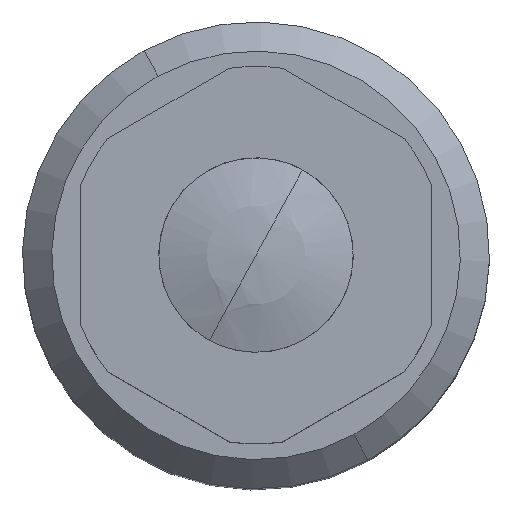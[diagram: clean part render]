
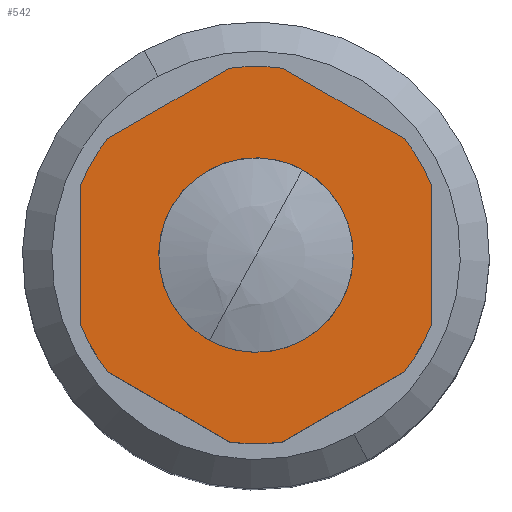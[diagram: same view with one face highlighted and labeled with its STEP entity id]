
A CAD part, top view. The second image highlights one B-rep face of the part: STEP entity #542.
In plain terms, the highlighted planar face has unit normal (0, 0, 1).
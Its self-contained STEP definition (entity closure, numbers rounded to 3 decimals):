
#129=CARTESIAN_POINT('Vertex',(1.199,-2.194,27.)) ;
#145=CARTESIAN_POINT('Vertex',(-1.199,2.194,27.)) ;
#148=CARTESIAN_POINT('Axis2P3D Location',(0.,0.,27.)) ;
#165=CARTESIAN_POINT('Axis2P3D Location',(0.,0.,27.)) ;
#435=CARTESIAN_POINT('Axis2P3D Location',(0.,4.85,27.)) ;
#440=CARTESIAN_POINT('Line Origine',(4.5,0.,27.)) ;
#444=CARTESIAN_POINT('Vertex',(4.5,-1.809,27.)) ;
#446=CARTESIAN_POINT('Vertex',(4.5,1.809,27.)) ;
#449=CARTESIAN_POINT('Axis2P3D Location',(0.,0.,27.)) ;
#453=CARTESIAN_POINT('Vertex',(3.817,2.993,27.)) ;
#456=CARTESIAN_POINT('Line Origine',(2.25,3.897,27.)) ;
#460=CARTESIAN_POINT('Vertex',(0.683,4.802,27.)) ;
#463=CARTESIAN_POINT('Axis2P3D Location',(0.,0.,27.)) ;
#467=CARTESIAN_POINT('Vertex',(-0.683,4.802,27.)) ;
#470=CARTESIAN_POINT('Line Origine',(-2.25,3.897,27.)) ;
#474=CARTESIAN_POINT('Vertex',(-3.817,2.993,27.)) ;
#477=CARTESIAN_POINT('Axis2P3D Location',(0.,0.,27.)) ;
#481=CARTESIAN_POINT('Vertex',(-4.5,1.809,27.)) ;
#484=CARTESIAN_POINT('Line Origine',(-4.5,0.,27.)) ;
#488=CARTESIAN_POINT('Vertex',(-4.5,-1.809,27.)) ;
#491=CARTESIAN_POINT('Axis2P3D Location',(0.,0.,27.)) ;
#495=CARTESIAN_POINT('Vertex',(-3.817,-2.993,27.)) ;
#498=CARTESIAN_POINT('Line Origine',(-2.25,-3.897,27.)) ;
#502=CARTESIAN_POINT('Vertex',(-0.683,-4.802,27.)) ;
#505=CARTESIAN_POINT('Axis2P3D Location',(0.,0.,27.)) ;
#509=CARTESIAN_POINT('Vertex',(0.683,-4.802,27.)) ;
#512=CARTESIAN_POINT('Line Origine',(2.25,-3.897,27.)) ;
#516=CARTESIAN_POINT('Vertex',(3.817,-2.993,27.)) ;
#519=CARTESIAN_POINT('Axis2P3D Location',(0.,0.,27.)) ;
#149=DIRECTION('Axis2P3D Direction',(0.,0.,1.)) ;
#166=DIRECTION('Axis2P3D Direction',(0.,0.,1.)) ;
#436=DIRECTION('Axis2P3D Direction',(0.,0.,1.)) ;
#437=DIRECTION('Axis2P3D XDirection',(1.,0.,0.)) ;
#441=DIRECTION('Vector Direction',(0.,1.,0.)) ;
#450=DIRECTION('Axis2P3D Direction',(0.,0.,1.)) ;
#457=DIRECTION('Vector Direction',(-0.866,0.5,0.)) ;
#464=DIRECTION('Axis2P3D Direction',(0.,0.,1.)) ;
#471=DIRECTION('Vector Direction',(-0.866,-0.5,0.)) ;
#478=DIRECTION('Axis2P3D Direction',(0.,0.,1.)) ;
#485=DIRECTION('Vector Direction',(0.,-1.,0.)) ;
#492=DIRECTION('Axis2P3D Direction',(0.,0.,1.)) ;
#499=DIRECTION('Vector Direction',(0.866,-0.5,0.)) ;
#506=DIRECTION('Axis2P3D Direction',(0.,0.,1.)) ;
#513=DIRECTION('Vector Direction',(0.866,0.5,0.)) ;
#520=DIRECTION('Axis2P3D Direction',(0.,0.,1.)) ;
#150=AXIS2_PLACEMENT_3D('Circle Axis2P3D',#148,#149,$) ;
#167=AXIS2_PLACEMENT_3D('Circle Axis2P3D',#165,#166,$) ;
#438=AXIS2_PLACEMENT_3D('Plane Axis2P3D',#435,#436,#437) ;
#451=AXIS2_PLACEMENT_3D('Circle Axis2P3D',#449,#450,$) ;
#465=AXIS2_PLACEMENT_3D('Circle Axis2P3D',#463,#464,$) ;
#479=AXIS2_PLACEMENT_3D('Circle Axis2P3D',#477,#478,$) ;
#493=AXIS2_PLACEMENT_3D('Circle Axis2P3D',#491,#492,$) ;
#507=AXIS2_PLACEMENT_3D('Circle Axis2P3D',#505,#506,$) ;
#521=AXIS2_PLACEMENT_3D('Circle Axis2P3D',#519,#520,$) ;
#525=ORIENTED_EDGE('',*,*,#448,.T.) ;
#526=ORIENTED_EDGE('',*,*,#455,.T.) ;
#527=ORIENTED_EDGE('',*,*,#462,.T.) ;
#528=ORIENTED_EDGE('',*,*,#469,.T.) ;
#529=ORIENTED_EDGE('',*,*,#476,.T.) ;
#530=ORIENTED_EDGE('',*,*,#483,.T.) ;
#531=ORIENTED_EDGE('',*,*,#490,.T.) ;
#532=ORIENTED_EDGE('',*,*,#497,.T.) ;
#533=ORIENTED_EDGE('',*,*,#504,.T.) ;
#534=ORIENTED_EDGE('',*,*,#511,.T.) ;
#535=ORIENTED_EDGE('',*,*,#518,.T.) ;
#536=ORIENTED_EDGE('',*,*,#523,.T.) ;
#539=ORIENTED_EDGE('',*,*,#152,.F.) ;
#540=ORIENTED_EDGE('',*,*,#169,.F.) ;
#541=FACE_BOUND('',#538,.T.) ;
#442=VECTOR('Line Direction',#441,1.) ;
#458=VECTOR('Line Direction',#457,1.) ;
#472=VECTOR('Line Direction',#471,1.) ;
#486=VECTOR('Line Direction',#485,1.) ;
#500=VECTOR('Line Direction',#499,1.) ;
#514=VECTOR('Line Direction',#513,1.) ;
#542=ADVANCED_FACE('PartBody',(#537,#541),#439,.T.) ;
#151=CIRCLE('generated circle',#150,2.5) ;
#168=CIRCLE('generated circle',#167,2.5) ;
#452=CIRCLE('generated circle',#451,4.85) ;
#466=CIRCLE('generated circle',#465,4.85) ;
#480=CIRCLE('generated circle',#479,4.85) ;
#494=CIRCLE('generated circle',#493,4.85) ;
#508=CIRCLE('generated circle',#507,4.85) ;
#522=CIRCLE('generated circle',#521,4.85) ;
#152=EDGE_CURVE('',#146,#130,#151,.T.) ;
#169=EDGE_CURVE('',#130,#146,#168,.T.) ;
#448=EDGE_CURVE('',#445,#447,#443,.T.) ;
#455=EDGE_CURVE('',#447,#454,#452,.T.) ;
#462=EDGE_CURVE('',#454,#461,#459,.T.) ;
#469=EDGE_CURVE('',#461,#468,#466,.T.) ;
#476=EDGE_CURVE('',#468,#475,#473,.T.) ;
#483=EDGE_CURVE('',#475,#482,#480,.T.) ;
#490=EDGE_CURVE('',#482,#489,#487,.T.) ;
#497=EDGE_CURVE('',#489,#496,#494,.T.) ;
#504=EDGE_CURVE('',#496,#503,#501,.T.) ;
#511=EDGE_CURVE('',#503,#510,#508,.T.) ;
#518=EDGE_CURVE('',#510,#517,#515,.T.) ;
#523=EDGE_CURVE('',#517,#445,#522,.T.) ;
#524=EDGE_LOOP('',(#525,#526,#527,#528,#529,#530,#531,#532,#533,#534,#535,#536)) ;
#538=EDGE_LOOP('',(#539,#540)) ;
#537=FACE_OUTER_BOUND('',#524,.T.) ;
#443=LINE('Line',#440,#442) ;
#459=LINE('Line',#456,#458) ;
#473=LINE('Line',#470,#472) ;
#487=LINE('Line',#484,#486) ;
#501=LINE('Line',#498,#500) ;
#515=LINE('Line',#512,#514) ;
#439=PLANE('Plane',#438) ;
#130=VERTEX_POINT('',#129) ;
#146=VERTEX_POINT('',#145) ;
#445=VERTEX_POINT('',#444) ;
#447=VERTEX_POINT('',#446) ;
#454=VERTEX_POINT('',#453) ;
#461=VERTEX_POINT('',#460) ;
#468=VERTEX_POINT('',#467) ;
#475=VERTEX_POINT('',#474) ;
#482=VERTEX_POINT('',#481) ;
#489=VERTEX_POINT('',#488) ;
#496=VERTEX_POINT('',#495) ;
#503=VERTEX_POINT('',#502) ;
#510=VERTEX_POINT('',#509) ;
#517=VERTEX_POINT('',#516) ;
